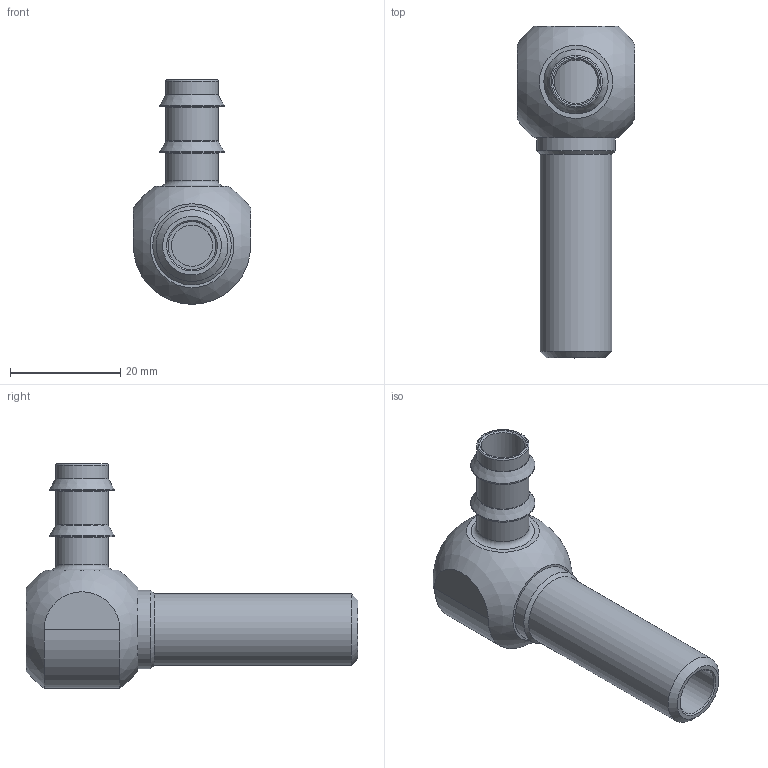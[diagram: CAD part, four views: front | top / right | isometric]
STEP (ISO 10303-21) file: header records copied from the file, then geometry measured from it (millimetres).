
FILE_DESCRIPTION(/* description */ (''),/* implementation_level */ '2;1');
FILE_NAME(/* name */ 'C:/Users/drich/Desktop/WJ14-M v1.step',/* time_stamp */ '2019-11-18T20:01:00-06:00',/* author */ (''),/* organization */ (''),/* preprocessor_version */ 'ST-DEVELOPER v18',/* originating_system */ 'Autodesk Translation Framework v8.12.0.6',/* authorisation */ '');
FILE_SCHEMA (('AUTOMOTIVE_DESIGN { 1 0 10303 214 3 1 1 }'));
Length unit declared in the file: inch
Products named in the file (4): WJ14-M; body 1; WJ14-M SHAFT; WJ14-M SHAFT_1
Assembly tree (3 placements, depth 3):
  WJ14-M
    body 1
    WJ14-M SHAFT
      WJ14-M SHAFT_1
Bounding box: 21.34 x 60.33 x 40.84 mm (x, y, z)
Volume: 8096.6 mm3; surface area: 8361.2 mm2
Topology: 2 solids, 2 shells, 81 faces, 225 edges, 163 vertices
Faces by surface type: plane 26, cylinder 20, torus 19, cone 15, sphere 1
Full cylindrical faces by diameter (mm): 7.468 x1, 7.925 x1, 8.712 x1, 9.525 x3, 11.684 x2, 12.573 x1, 12.7 x1, 12.802 x1, 12.827 x2, 13.032 x1, 13.056 x1, 14.275 x1, 15.621 x2, 18.796 x1
Entity records: 2889 total; most frequent: DIRECTION 549, CARTESIAN_POINT 523, ORIENTED_EDGE 448, AXIS2_PLACEMENT_3D 247, EDGE_CURVE 224, VERTEX_POINT 163, CIRCLE 159, EDGE_LOOP 101
